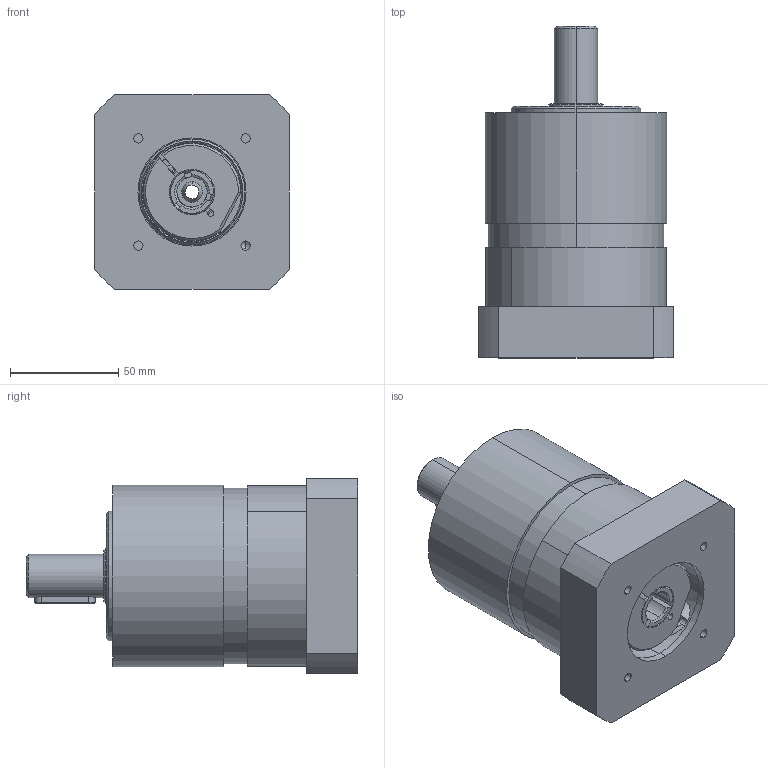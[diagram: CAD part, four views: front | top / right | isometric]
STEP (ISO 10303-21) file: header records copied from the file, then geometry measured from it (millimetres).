
FILE_DESCRIPTION (( 'STEP AP214' ), '1' );
FILE_NAME ('×°ÅäÌå3.STEP', '2017-04-24T14:50:13', ( '' ), ( '' ), 'SwSTEP 2.0', 'SolidWorks 2016', '' );
FILE_SCHEMA (( 'AUTOMOTIVE_DESIGN' ));
Length unit declared in the file: millimetre
Products named in the file (1): 蚾饜极3
Bounding box: 90 x 153.4 x 90 mm (x, y, z)
Surface area: 68403.1 mm2 (no closed solid volume)
Topology: 0 solids, 12 shells, 147 faces, 441 edges, 304 vertices
Faces by surface type: cylinder 82, plane 39, cone 22, torus 4
Entity records: 6973 total; most frequent: CARTESIAN_POINT 1279, DIRECTION 922, ORIENTED_EDGE 726, EDGE_CURVE 439, AXIS2_PLACEMENT_3D 369, VERTEX_POINT 304, CIRCLE 221, LINE 184
